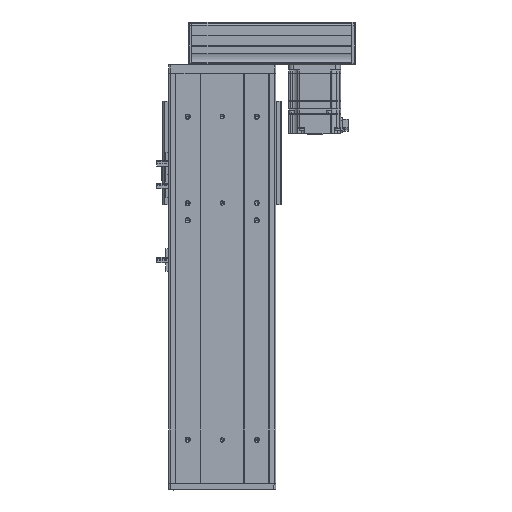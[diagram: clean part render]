
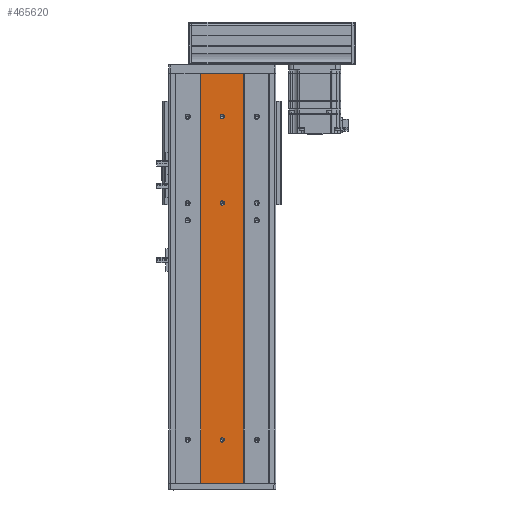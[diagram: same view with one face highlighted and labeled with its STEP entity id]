
A CAD part, front view. The second image highlights one B-rep face of the part: STEP entity #465620.
In plain terms, the highlighted planar face has unit normal (0, -1, 0) as drawn and (0, 1, 0) by its records, which use the part's own axes.
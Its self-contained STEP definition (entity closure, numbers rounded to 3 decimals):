
#434820=CARTESIAN_POINT('',(0.,42.,-112.5));
#434830=VERTEX_POINT('',#434820);
#434860=CARTESIAN_POINT('',(0.,42.,-110.));
#434870=DIRECTION('',(-0.,-1.,-0.));
#434880=DIRECTION('',(0.,0.,1.));
#434890=AXIS2_PLACEMENT_3D('',#434860,#434870,#434880);
#434900=CIRCLE('',#434890,2.5);
#434910=CARTESIAN_POINT('',(0.,42.,-107.5));
#434920=VERTEX_POINT('',#434910);
#434930=EDGE_CURVE('',#434830,#434920,#434900,.T.);
#435550=CARTESIAN_POINT('',(0.,42.,-7.5)
);
#435560=VERTEX_POINT('',#435550);
#435590=CARTESIAN_POINT('',(0.,42.,-10.)
);
#435600=DIRECTION('',(-0.,-1.,-0.));
#435610=DIRECTION('',(0.,0.,1.));
#435620=AXIS2_PLACEMENT_3D('',#435590,#435600,#435610);
#435630=CIRCLE('',#435620,2.5);
#435640=CARTESIAN_POINT('',(0.,42.,-12.5));
#435650=VERTEX_POINT('',#435640);
#435660=EDGE_CURVE('',#435560,#435650,#435630,.T.);
#436190=CARTESIAN_POINT('',(0.,42.,266.5));
#436200=VERTEX_POINT('',#436190);
#436400=CARTESIAN_POINT('',(0.,42.,261.5));
#436410=VERTEX_POINT('',#436400);
#436440=CARTESIAN_POINT('',(0.,42.,264.));
#436450=DIRECTION('',(-0.,-1.,-0.));
#436460=DIRECTION('',(0.,0.,1.));
#436470=AXIS2_PLACEMENT_3D('',#436440,#436450,#436460);
#436480=CIRCLE('',#436470,2.5);
#436490=EDGE_CURVE('',#436410,#436200,#436480,.T.);
#464950=CARTESIAN_POINT('',(24.5,42.,314.));
#464960=VERTEX_POINT('',#464950);
#464990=CARTESIAN_POINT('',(24.5,42.,-160.));
#465000=DIRECTION('',(0.,0.,1.));
#465010=VECTOR('',#465000,1000.);
#465020=LINE('',#464990,#465010);
#465030=CARTESIAN_POINT('',(24.5,42.,-160.));
#465040=VERTEX_POINT('',#465030);
#465050=EDGE_CURVE('',#465040,#464960,#465020,.T.);
#465170=CARTESIAN_POINT('',(0.,42.,-160.));
#465180=DIRECTION('',(0.,1.,0.));
#465190=DIRECTION('',(0.,0.,-1.));
#465200=AXIS2_PLACEMENT_3D('',#465170,#465180,#465190);
#465210=PLANE('',#465200);
#465220=EDGE_CURVE('',#436200,#436410,#436480,.T.);
#465230=ORIENTED_EDGE('',*,*,#465220,.T.);
#465240=ORIENTED_EDGE('',*,*,#436490,.T.);
#465250=EDGE_LOOP('',(#465240,#465230));
#465260=FACE_BOUND('',#465250,.T.);
#465270=EDGE_CURVE('',#434920,#434830,#434900,.T.);
#465280=ORIENTED_EDGE('',*,*,#465270,.T.);
#465290=ORIENTED_EDGE('',*,*,#434930,.T.);
#465300=EDGE_LOOP('',(#465290,#465280));
#465310=FACE_BOUND('',#465300,.T.);
#465320=ORIENTED_EDGE('',*,*,#435660,.T.);
#465330=EDGE_CURVE('',#435650,#435560,#435630,.T.);
#465340=ORIENTED_EDGE('',*,*,#465330,.T.);
#465350=EDGE_LOOP('',(#465340,#465320));
#465360=FACE_BOUND('',#465350,.T.);
#465370=CARTESIAN_POINT('',(0.,42.,314.));
#465380=DIRECTION('',(-1.,-0.,-0.));
#465390=VECTOR('',#465380,1000.);
#465400=LINE('',#465370,#465390);
#465410=CARTESIAN_POINT('',(-24.5,42.,314.));
#465420=VERTEX_POINT('',#465410);
#465430=EDGE_CURVE('',#464960,#465420,#465400,.T.);
#465440=ORIENTED_EDGE('',*,*,#465430,.F.);
#465450=CARTESIAN_POINT('',(-24.5,42.,-160.));
#465460=DIRECTION('',(0.,0.,1.));
#465470=VECTOR('',#465460,1000.);
#465480=LINE('',#465450,#465470);
#465490=CARTESIAN_POINT('',(-24.5,42.,-160.));
#465500=VERTEX_POINT('',#465490);
#465510=EDGE_CURVE('',#465500,#465420,#465480,.T.);
#465520=ORIENTED_EDGE('',*,*,#465510,.T.);
#465530=CARTESIAN_POINT('',(24.5,42.,-160.));
#465540=DIRECTION('',(-1.,-0.,-0.));
#465550=VECTOR('',#465540,1000.);
#465560=LINE('',#465530,#465550);
#465570=EDGE_CURVE('',#465040,#465500,#465560,.T.);
#465580=ORIENTED_EDGE('',*,*,#465570,.T.);
#465590=ORIENTED_EDGE('',*,*,#465050,.F.);
#465600=EDGE_LOOP('',(#465590,#465580,#465520,#465440));
#465610=FACE_OUTER_BOUND('',#465600,.T.);
#465620=ADVANCED_FACE('',(#465260,#465310,#465360,#465610),#465210,.T.);
